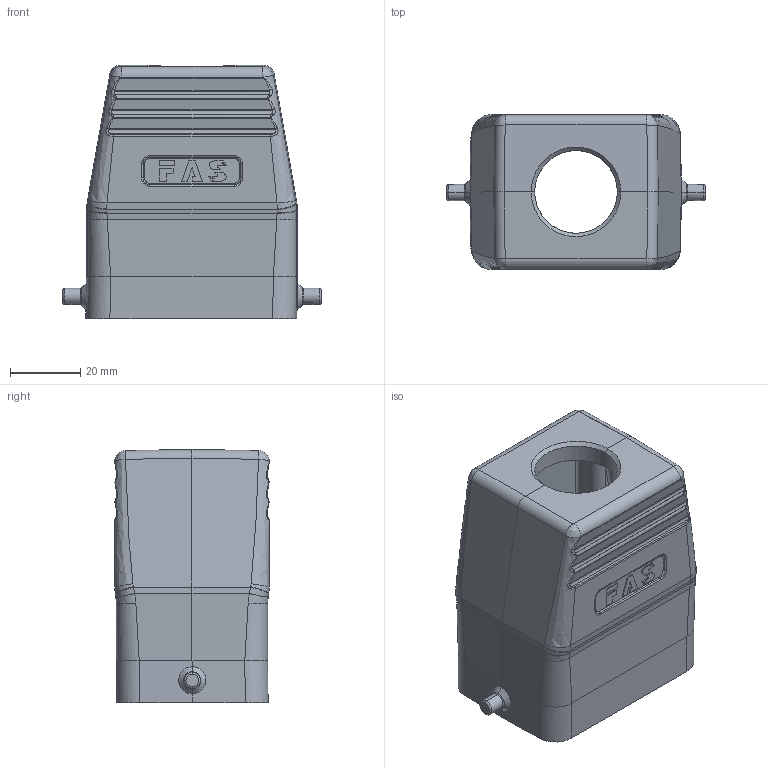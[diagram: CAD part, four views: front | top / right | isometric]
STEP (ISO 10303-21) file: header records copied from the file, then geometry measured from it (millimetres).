
FILE_DESCRIPTION (( 'STEP AP203' ), '1' );
FILE_NAME ('H6B-TGH-M25.STEP', '2020-11-21T02:09:21', ( '' ), ( '' ), 'SwSTEP 2.0', 'SolidWorks 2016', '' );
FILE_SCHEMA (( 'CONFIG_CONTROL_DESIGN' ));
Length unit declared in the file: millimetre
Products named in the file (1): H6B-TGH-M25
Bounding box: 73.4 x 44 x 72 mm (x, y, z)
Volume: 60332.1 mm3; surface area: 29468.6 mm2
Topology: 1 solids, 1 shells, 518 faces, 1263 edges, 772 vertices
Faces by surface type: plane 183, bspline 154, cylinder 149, cone 28, torus 4
Entity records: 24079 total; most frequent: CARTESIAN_POINT 13326, ORIENTED_EDGE 2526, DIRECTION 1776, EDGE_CURVE 1263, VERTEX_POINT 772, AXIS2_PLACEMENT_3D 603, VECTOR 570, LINE 570
